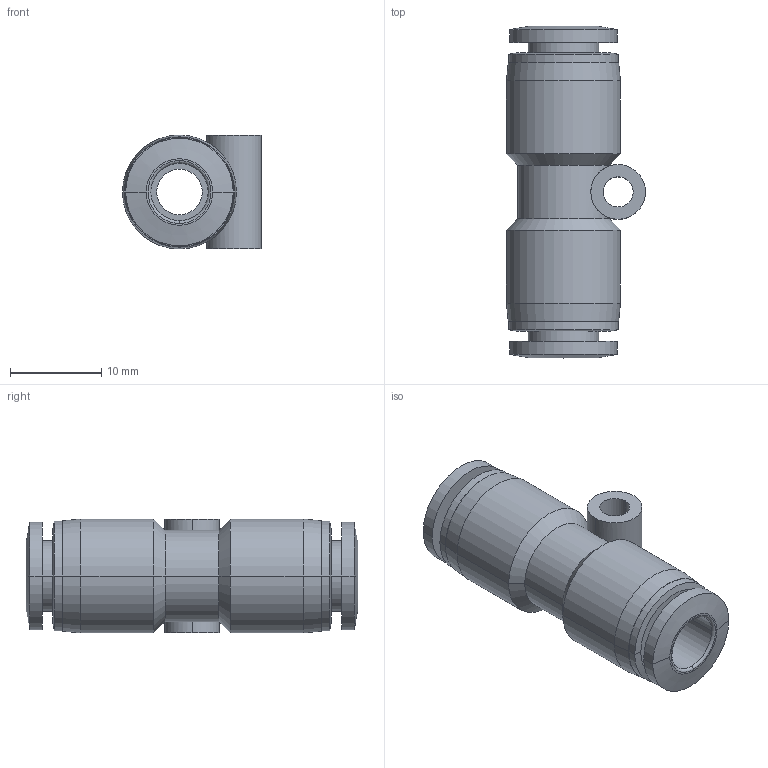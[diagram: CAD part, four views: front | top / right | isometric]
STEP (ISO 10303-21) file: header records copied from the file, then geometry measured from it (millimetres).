
FILE_DESCRIPTION (( 'STEP AP203' ), '1' );
FILE_NAME ('FH06-00.STEP', '2020-05-13T10:57:18', ( '' ), ( '' ), 'SwSTEP 2.0', 'SolidWorks 2019', '' );
FILE_SCHEMA (( 'CONFIG_CONTROL_DESIGN' ));
Length unit declared in the file: millimetre
Products named in the file (1): FH06-00
Bounding box: 15.25 x 36.4 x 12.5 mm (x, y, z)
Volume: 2967.3 mm3; surface area: 2781.7 mm2
Topology: 1 solids, 1 shells, 60 faces, 130 edges, 80 vertices
Faces by surface type: cylinder 28, cone 16, plane 12, torus 4
Entity records: 1900 total; most frequent: CARTESIAN_POINT 440, DIRECTION 328, ORIENTED_EDGE 260, AXIS2_PLACEMENT_3D 141, EDGE_CURVE 130, VERTEX_POINT 80, CIRCLE 80, EDGE_LOOP 72
